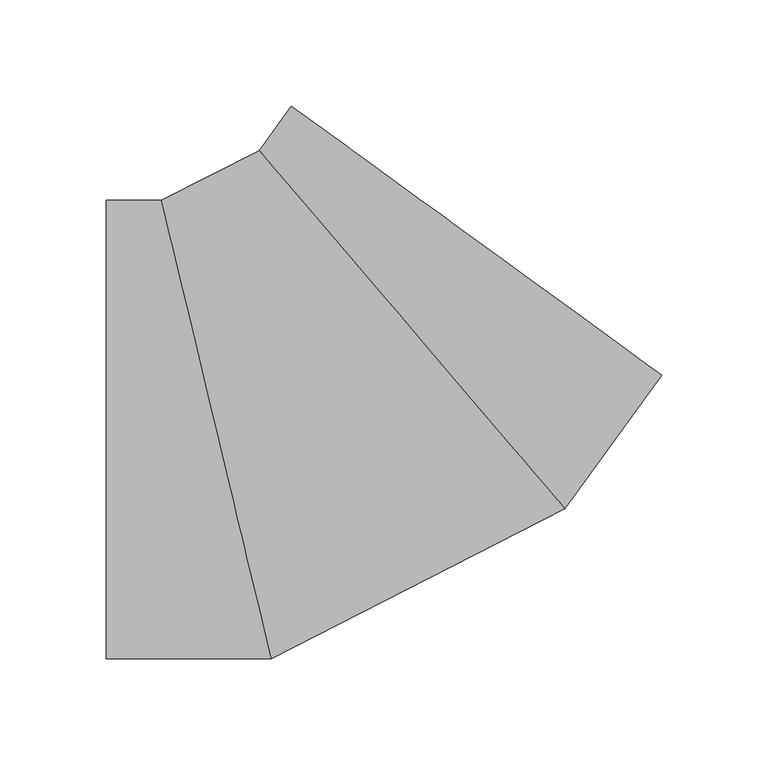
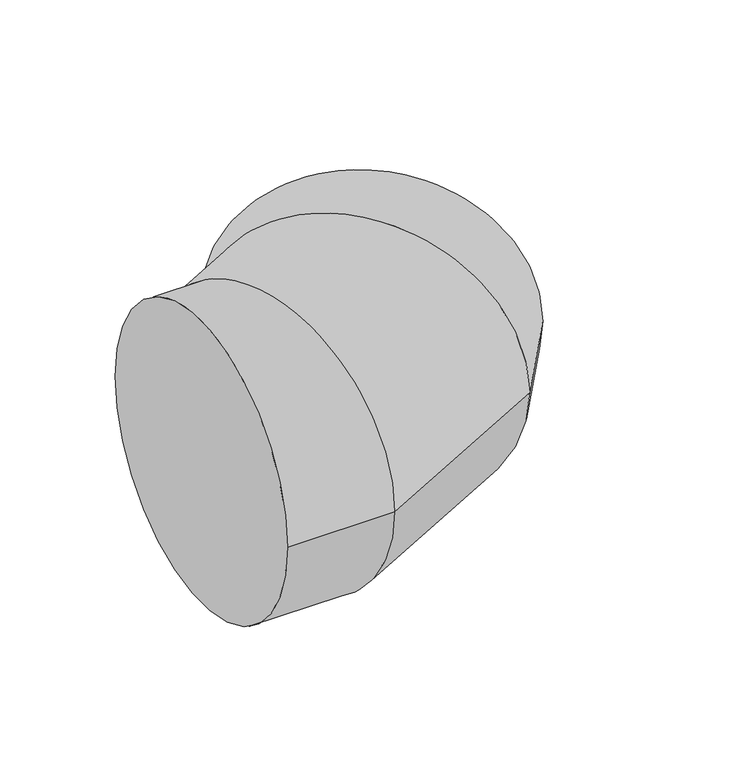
"""IFC4 building model written with IfcOpenShell, lengths in millimetres: duct fitting geometry, 17_Отвод_Заключение : 10_Отвод_3D объект."""

import ifcopenshell
import ifcopenshell.guid

model = None  # the IFC model being written
_history = None  # IfcOwnerHistory: only IFC2X3 demands one
_inside = {}  # id of a spatial element -> (the spatial element, [elements in it])
_under = {}  # id of a project, library or spatial element -> (it, [spatial elements below it])
_declared = {}  # id of a project -> (the project, [libraries it declares])
_typed = {}  # id of a type object -> (the type object, [elements of that type])
_made_of = {}  # id of a material, layer set ... -> (it, [elements and type objects made of it])


def new_model(schema):
    """Start an empty IFC model of exactly this schema.

    Asked for "IFC4X3", IfcOpenShell would pick the latest addendum, in which some entities
    have other attributes; the version numbers below select the first issue.
    IFC2X3 requires an IfcOwnerHistory on every rooted entity: one is made here for all.
    """
    global model, _history
    if schema == "IFC4X3":
        model = ifcopenshell.file(schema_version=(4, 3, 0, 0))
    else:
        model = ifcopenshell.file(schema=schema)
    _inside.clear()
    _under.clear()
    _declared.clear()
    _typed.clear()
    _made_of.clear()
    _history = None
    if model.schema == "IFC2X3":
        org = make("IfcOrganization", Name="unknown")
        user = make(
            "IfcPersonAndOrganization",
            ThePerson=make("IfcPerson", FamilyName="unknown"),
            TheOrganization=org,
        )
        app = make(
            "IfcApplication",
            ApplicationDeveloper=org,
            Version="unknown",
            ApplicationFullName="unknown",
            ApplicationIdentifier="unknown",
        )
        _history = make(
            "IfcOwnerHistory",
            OwningUser=user,
            OwningApplication=app,
            ChangeAction="ADDED",
            CreationDate=0,
        )
    return model


def make(cls, **values):
    """One entity of the class cls with the attributes given. An attribute that is None is left unset."""
    return model.create_entity(
        cls, **{name: value for name, value in values.items() if value is not None}
    )


def rooted(cls, **values):
    """An entity with a GlobalId (a new one), such as an element, a storey or a relation."""
    return make(cls, GlobalId=ifcopenshell.guid.new(), OwnerHistory=_history, **values)


def si_unit(unit_type, name, prefix=None):
    """IfcSIUnit, for example si_unit("LENGTHUNIT", "METRE", prefix="MILLI")."""
    return make("IfcSIUnit", UnitType=unit_type, Prefix=prefix, Name=name)


def assignment(units):
    """IfcUnitAssignment: the units of a project."""
    return None if units is None else make("IfcUnitAssignment", Units=units)


def point(xyz):
    """IfcCartesianPoint."""
    return None if xyz is None else make("IfcCartesianPoint", Coordinates=xyz)


def direction(xyz):
    """IfcDirection."""
    return None if xyz is None else make("IfcDirection", DirectionRatios=xyz)


def frame(location, z_axis=None, x_axis=None):
    """IfcAxis2Placement3D, a coordinate frame: its origin and axes. An axis left out is left unset."""
    return make(
        "IfcAxis2Placement3D",
        Location=point(location),
        Axis=direction(z_axis),
        RefDirection=direction(x_axis),
    )


def origin():
    """The frame at (0, 0, 0) with its axes left unset."""
    return frame((0.0, 0.0, 0.0))


def place(relative_to, where):
    """IfcLocalPlacement: puts the frame where relative to a parent placement (None: the world)."""
    return make(
        "IfcLocalPlacement", PlacementRelTo=relative_to, RelativePlacement=where
    )


def context(
    kind, dimensions, precision=None, world=None, true_north=None, identifier=None
):
    """IfcGeometricRepresentationContext, for example the 3D "Model" context."""
    return make(
        "IfcGeometricRepresentationContext",
        ContextIdentifier=identifier,
        ContextType=kind,
        CoordinateSpaceDimension=dimensions,
        Precision=precision,
        WorldCoordinateSystem=world,
        TrueNorth=true_north,
    )


def project(units=None, contexts=None):
    """IfcProject with its units and contexts."""
    return rooted(
        "IfcProject",
        Name="project",
        RepresentationContexts=contexts,
        UnitsInContext=assignment(units),
    )


def spatial(cls, under=None, at=None, **own):
    """A site, building, storey or space (cls), placed at a placement, below another one or the project."""
    s = rooted(cls, ObjectPlacement=at, **own)
    if under is not None:
        _under.setdefault(under.id(), (under, []))[1].append(s)
    return s


def circle_curve(where, radius):
    """IfcCircle in the frame where."""
    return make("IfcCircle", Position=where, Radius=radius)


def ellipse_curve(where, semi_axis1, semi_axis2):
    """IfcEllipse in the frame where."""
    return make(
        "IfcEllipse", Position=where, SemiAxis1=semi_axis1, SemiAxis2=semi_axis2
    )


def shape(context_of_items, identifier, shape_type, items):
    """IfcShapeRepresentation: the items that make up one representation, for example the "Body"."""
    return make(
        "IfcShapeRepresentation",
        ContextOfItems=context_of_items,
        RepresentationIdentifier=identifier,
        RepresentationType=shape_type,
        Items=items,
    )


def source(mapping_origin, context_of_items, identifier, shape_type, items):
    """IfcRepresentationMap: a shape defined once, which mapped items show again and again."""
    return make(
        "IfcRepresentationMap",
        MappingOrigin=mapping_origin,
        MappedRepresentation=shape(context_of_items, identifier, shape_type, items),
    )


def transform(
    local_origin,
    x_axis=None,
    y_axis=None,
    z_axis=None,
    scale=None,
    scale2=None,
    scale3=None,
    uniform=True,
):
    """IfcCartesianTransformationOperator3D, or its non-uniform kind. x_axis, y_axis, z_axis: its Axis1, 2, 3."""
    if uniform:
        return make(
            "IfcCartesianTransformationOperator3D",
            Axis1=direction(x_axis),
            Axis2=direction(y_axis),
            LocalOrigin=point(local_origin),
            Scale=scale,
            Axis3=direction(z_axis),
        )
    return make(
        "IfcCartesianTransformationOperator3DnonUniform",
        Axis1=direction(x_axis),
        Axis2=direction(y_axis),
        LocalOrigin=point(local_origin),
        Scale=scale,
        Axis3=direction(z_axis),
        Scale2=scale2,
        Scale3=scale3,
    )


def mapped(mapping_source, mapping_target):
    """IfcMappedItem: shows the shape of a source again, moved by a transform."""
    return make(
        "IfcMappedItem", MappingSource=mapping_source, MappingTarget=mapping_target
    )


def made_of(thing, what):
    """Note that an element or type object is made of a material, layer set ...; save() writes the relation."""
    if what is not None:
        _made_of.setdefault(what.id(), (what, []))[1].append(thing)
    return thing


def element(
    cls,
    number,
    at=None,
    inside=None,
    cuts=None,
    type_object=None,
    material=None,
    context=None,
    identifier="Body",
    shape_type=None,
    held_by="IfcProductDefinitionShape",
    body=None,
    shapes=None,
    **own,
):
    """One element of the class cls, such as IfcWall. Its Tag is "e" and its number.

    at: its placement. inside: the storey or other place that contains it. cuts: it is an
    opening in that element (IfcRelVoidsElement). A single representation is given by context,
    identifier, shape_type and body (its items); several are given by shapes. held_by: the class
    of the entity that holds the representations. save() writes the other relations.
    """
    e = rooted(cls, Tag="e%d" % number, ObjectPlacement=at, **own)
    if body is not None:
        shapes = [shape(context, identifier, shape_type, body)]
    if shapes is not None:
        e.Representation = make(held_by, Representations=shapes)
    if inside is not None:
        _inside.setdefault(inside.id(), (inside, []))[1].append(e)
    if cuts is not None:
        rooted(
            "IfcRelVoidsElement", RelatingBuildingElement=cuts, RelatedOpeningElement=e
        )
    if type_object is not None:
        _typed.setdefault(type_object.id(), (type_object, []))[1].append(e)
    return made_of(e, material)


def aggregate(whole, parts):
    """IfcRelAggregates: a whole, such as a stair, and the parts it consists of."""
    return rooted("IfcRelAggregates", RelatingObject=whole, RelatedObjects=parts)


def save(model, path):
    """Write the relations noted so far, then the file.

    IfcRelAggregates (storeys below a building ...), IfcRelContainedInSpatialStructure (elements
    in a storey), IfcRelDefinesByType, IfcRelAssociatesMaterial and IfcRelDeclares: one each for
    every whole, place, type object, material and project.
    """
    for whole, parts in _under.values():
        aggregate(whole, parts)
    for where, things in _inside.values():
        rooted(
            "IfcRelContainedInSpatialStructure",
            RelatedElements=things,
            RelatingStructure=where,
        )
    for kind, things in _typed.values():
        rooted("IfcRelDefinesByType", RelatedObjects=things, RelatingType=kind)
    for what, things in _made_of.values():
        rooted("IfcRelAssociatesMaterial", RelatedObjects=things, RelatingMaterial=what)
    for by, libraries in _declared.values():
        rooted("IfcRelDeclares", RelatingContext=by, RelatedDefinitions=libraries)
    model.write(path)


def plane_surface(at):
    """IfcPlane: the flat surface through the origin of the frame at, square to its z axis."""
    return make("IfcPlane", Position=at)


def cylinder_surface(at, radius):
    """IfcCylindricalSurface: all points at the distance radius from the z axis of the frame at."""
    return make("IfcCylindricalSurface", Position=at, Radius=radius)


def advanced_brep(points, edges, surfaces, faces):
    """IfcAdvancedBrep: a solid bounded by faces that lie on surfaces and meet in shared edges.

    An edge is (start, end): straight between two places in points (the first is 0);
    or (start, end, curve); or (start, end, curve, False) where it runs against its curve.
    A face is (place in surfaces, loops), or (place, loops, False) where it looks against
    its surface's normal. A loop lists edges by number (the first is 1), with a minus sign
    where the edge is run from its end to its start. The first loop is the outer one.
    """
    corners = [point(p) for p in points]
    vertices = [make("IfcVertexPoint", VertexGeometry=c) for c in corners]
    made = []
    for start, end, *more in edges:
        made.append(
            make(
                "IfcEdgeCurve",
                EdgeStart=vertices[start],
                EdgeEnd=vertices[end],
                EdgeGeometry=more[0] if more else make("IfcPolyline", Points=[corners[start], corners[end]]),
                SameSense=more[1] if len(more) > 1 else True,
            )
        )
    hull = []
    for where, loops, *sense in faces:
        bounds = []
        for j, loop in enumerate(loops):
            ring = [make("IfcOrientedEdge", EdgeElement=made[abs(k) - 1], Orientation=k > 0) for k in loop]
            bounds.append(
                make(
                    "IfcFaceOuterBound" if j == 0 else "IfcFaceBound",
                    Bound=make("IfcEdgeLoop", EdgeList=ring),
                    Orientation=True,
                )
            )
        hull.append(make("IfcAdvancedFace", Bounds=bounds, FaceSurface=surfaces[where], SameSense=sense[0] if sense else True))
    return make("IfcAdvancedBrep", Outer=make("IfcClosedShell", CfsFaces=hull))


def duct_fitting_1d6929bf(model_context):
    return source(origin(), model_context, "Body", "AdvancedBrep", [
        advanced_brep(
        [(-110.0574971, -108.0, 0.0), (-110.0574971, 108.0, 0.0), (-32.2719791, -108.0, 0.0), (-84.1289911, 108.0, 0.0), (106.3428288, -37.3722277, 0.0), (-37.9240551, 131.5425908, 0.0), (152.0640091, 25.5575783, 0.0), (-22.6836617, 152.5191928, 0.0)],
        [
            (0, 1, circle_curve(frame((-110.0574971, 0.0, 0.0), z_axis=(-1.0, 0.0, 0.0), x_axis=(0.0, 1.0, 0.0)), 108.0)),
            (1, 0, circle_curve(frame((-110.0574971, 0.0, 0.0), z_axis=(-1.0, 0.0, 0.0), x_axis=(0.0, 1.0, 0.0)), 108.0)),
            (0, 2),
            (2, 3, ellipse_curve(frame((-58.2004851, 0.0, 0.0), z_axis=(-0.9723699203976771, -0.23344536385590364, 0.0), x_axis=(-0.23344536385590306, 0.9723699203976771, 0.0)), 111.0688409, 108.0)),
            (3, 1),
            (3, 2, ellipse_curve(frame((-58.2004851, 0.0, 0.0), z_axis=(-0.9723699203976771, -0.23344536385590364, 0.0), x_axis=(-0.23344536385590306, 0.9723699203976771, 0.0)), 111.0688409, 108.0)),
            (2, 4),
            (4, 5, ellipse_curve(frame((34.2093868, 47.0851816, 0.0), z_axis=(-0.7604059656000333, -0.649448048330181, 0.0), x_axis=(-0.649448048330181, 0.7604059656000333, 0.0)), 111.0688409, 108.0)),
            (5, 3),
            (5, 4, ellipse_curve(frame((34.2093868, 47.0851816, 0.0), z_axis=(-0.7604059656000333, -0.649448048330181, 0.0), x_axis=(-0.649448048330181, 0.7604059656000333, 0.0)), 111.0688409, 108.0)),
            (4, 6),
            (6, 7, circle_curve(frame((64.6901737, 89.0383855, 0.0), z_axis=(-0.5877852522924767, -0.8090169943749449, 0.0), x_axis=(-0.8090169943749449, 0.5877852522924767, 0.0)), 108.0)),
            (7, 5),
            (7, 6, circle_curve(frame((64.6901737, 89.0383855, 0.0), z_axis=(-0.5877852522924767, -0.8090169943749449, 0.0), x_axis=(-0.8090169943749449, 0.5877852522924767, 0.0)), 108.0)),
        ],
        [
            plane_surface(frame((-110.0574971, 0.0, 0.0), z_axis=(-1.0, 0.0, 0.0), x_axis=(0.0, 0.0, 1.0))),
            cylinder_surface(frame((-110.0574971, 0.0, 0.0), z_axis=(-1.0, 0.0, 0.0), x_axis=(0.0, 1.0, 0.0)), 108.0),
            cylinder_surface(frame((-58.2004851, 0.0, 0.0), z_axis=(-0.8910065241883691, -0.4539904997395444, 0.0), x_axis=(-0.4539904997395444, 0.8910065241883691, 0.0)), 108.0),
            cylinder_surface(frame((34.2093868, 47.0851816, 0.0), z_axis=(-0.5877852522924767, -0.8090169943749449, 0.0), x_axis=(-0.8090169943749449, 0.5877852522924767, 0.0)), 108.0),
            plane_surface(frame((64.6901737, 89.0383855, 0.0), z_axis=(0.5877852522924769, 0.8090169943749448, 0.0), x_axis=(0.0, 0.0, 1.0))),
        ],
        [
            (0, [[1, 2]]),
            (1, [[-1, 3, 4, 5]]),
            (1, [[-2, -5, 6, -3]]),
            (2, [[-4, 7, 8, 9]]),
            (2, [[-6, -9, 10, -7]]),
            (3, [[-8, 11, 12, 13]]),
            (3, [[-10, -13, 14, -11]]),
            (4, [[-14, -12]]),
        ],
    ),
    ])


if __name__ == "__main__":
    model = new_model("IFC4")
    model_context = context("Model", 3, world=origin())
    ifc_project = project(units=[si_unit("LENGTHUNIT", "METRE", prefix="MILLI")], contexts=[model_context])
    site = spatial("IfcSite", under=ifc_project)
    building = spatial("IfcBuilding", under=site)
    placement = place(None, origin())
    duct_fitting_shape = duct_fitting_1d6929bf(model_context)
    element("IfcDuctFitting", 1, ObjectType="17_Отвод_Заключение : 10_Отвод_3D объект", at=placement, inside=building, context=model_context, shape_type="MappedRepresentation", body=[
        mapped(duct_fitting_shape, transform((0.0, 0.0, 0.0), x_axis=(1.0, 0.0, 0.0), y_axis=(0.0, 1.0, 0.0), z_axis=(0.0, 0.0, 1.0))),
    ])
    save(model, "model.ifc")
